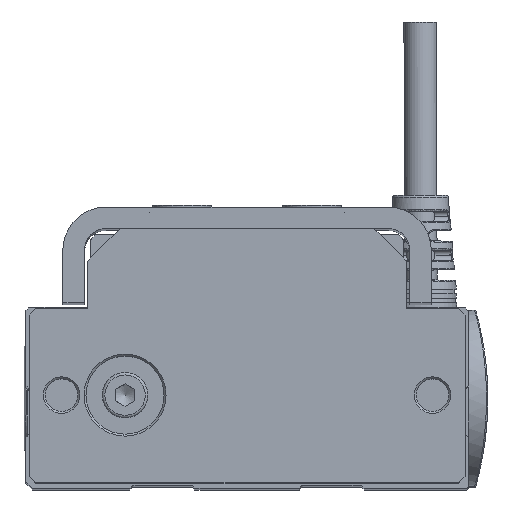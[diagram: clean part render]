
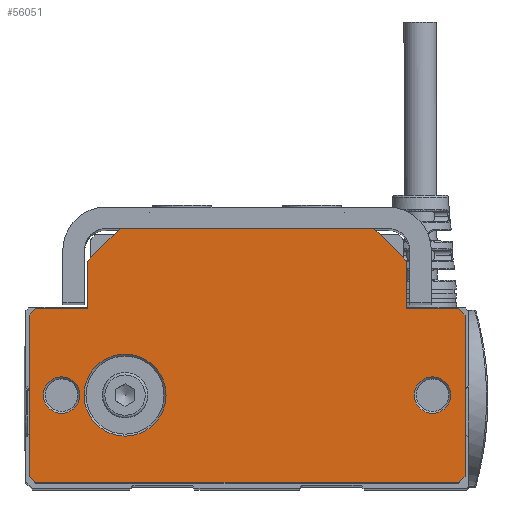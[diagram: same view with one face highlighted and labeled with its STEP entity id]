
A CAD part, top view. The second image highlights one B-rep face of the part: STEP entity #56051.
In plain terms, the highlighted planar face has unit normal (0, 0, 1).
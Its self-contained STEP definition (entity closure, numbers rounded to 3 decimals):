
#5225=FACE_BOUND('',#13966,.T.);
#5226=FACE_BOUND('',#13967,.T.);
#5227=FACE_BOUND('',#13968,.T.);
#7711=CIRCLE('',#61836,2.8);
#7712=CIRCLE('',#61837,2.8);
#7713=CIRCLE('',#61838,2.8);
#7714=CIRCLE('',#61839,2.8);
#7715=CIRCLE('',#61840,6.3);
#7716=CIRCLE('',#61841,6.3);
#10674=FACE_OUTER_BOUND('',#13965,.T.);
#13965=EDGE_LOOP('',(#51377,#51378,#51379,#51380,#51381,#51382,#51383,#51384,
#51385,#51386,#51387,#51388,#51389,#51390));
#13966=EDGE_LOOP('',(#51391,#51392));
#13967=EDGE_LOOP('',(#51393,#51394));
#13968=EDGE_LOOP('',(#51395,#51396));
#18057=LINE('',#121137,#22160);
#18059=LINE('',#121141,#22162);
#18062=LINE('',#121147,#22165);
#18063=LINE('',#121149,#22166);
#18064=LINE('',#121151,#22167);
#18065=LINE('',#121153,#22168);
#18066=LINE('',#121155,#22169);
#18067=LINE('',#121157,#22170);
#18068=LINE('',#121159,#22171);
#18069=LINE('',#121161,#22172);
#18070=LINE('',#121163,#22173);
#18071=LINE('',#121165,#22174);
#18072=LINE('',#121167,#22175);
#18073=LINE('',#121168,#22176);
#22160=VECTOR('',#76462,10.);
#22162=VECTOR('',#76466,1000.);
#22165=VECTOR('',#76471,1000.);
#22166=VECTOR('',#76472,10.);
#22167=VECTOR('',#76473,1000.);
#22168=VECTOR('',#76474,1000.);
#22169=VECTOR('',#76475,1000.);
#22170=VECTOR('',#76476,1000.);
#22171=VECTOR('',#76477,1000.);
#22172=VECTOR('',#76478,1000.);
#22173=VECTOR('',#76479,1000.);
#22174=VECTOR('',#76480,1000.);
#22175=VECTOR('',#76481,1000.);
#22176=VECTOR('',#76482,1000.);
#27473=VERTEX_POINT('',#121134);
#27474=VERTEX_POINT('',#121136);
#27475=VERTEX_POINT('',#121140);
#27477=VERTEX_POINT('',#121146);
#27478=VERTEX_POINT('',#121148);
#27479=VERTEX_POINT('',#121150);
#27480=VERTEX_POINT('',#121152);
#27481=VERTEX_POINT('',#121154);
#27482=VERTEX_POINT('',#121156);
#27483=VERTEX_POINT('',#121158);
#27484=VERTEX_POINT('',#121160);
#27485=VERTEX_POINT('',#121162);
#27486=VERTEX_POINT('',#121164);
#27487=VERTEX_POINT('',#121166);
#27488=VERTEX_POINT('',#121169);
#27489=VERTEX_POINT('',#121170);
#27490=VERTEX_POINT('',#121173);
#27491=VERTEX_POINT('',#121174);
#27492=VERTEX_POINT('',#121177);
#27493=VERTEX_POINT('',#121178);
#35478=EDGE_CURVE('',#27473,#27474,#18057,.T.);
#35480=EDGE_CURVE('',#27474,#27475,#18059,.T.);
#35483=EDGE_CURVE('',#27473,#27477,#18062,.T.);
#35484=EDGE_CURVE('',#27478,#27477,#18063,.T.);
#35485=EDGE_CURVE('',#27479,#27478,#18064,.T.);
#35486=EDGE_CURVE('',#27480,#27479,#18065,.T.);
#35487=EDGE_CURVE('',#27480,#27481,#18066,.T.);
#35488=EDGE_CURVE('',#27481,#27482,#18067,.T.);
#35489=EDGE_CURVE('',#27482,#27483,#18068,.T.);
#35490=EDGE_CURVE('',#27484,#27483,#18069,.T.);
#35491=EDGE_CURVE('',#27484,#27485,#18070,.T.);
#35492=EDGE_CURVE('',#27485,#27486,#18071,.T.);
#35493=EDGE_CURVE('',#27486,#27487,#18072,.T.);
#35494=EDGE_CURVE('',#27475,#27487,#18073,.T.);
#35495=EDGE_CURVE('',#27488,#27489,#7711,.T.);
#35496=EDGE_CURVE('',#27489,#27488,#7712,.T.);
#35497=EDGE_CURVE('',#27490,#27491,#7713,.T.);
#35498=EDGE_CURVE('',#27491,#27490,#7714,.T.);
#35499=EDGE_CURVE('',#27492,#27493,#7715,.T.);
#35500=EDGE_CURVE('',#27493,#27492,#7716,.T.);
#51377=ORIENTED_EDGE('',*,*,#35478,.F.);
#51378=ORIENTED_EDGE('',*,*,#35483,.T.);
#51379=ORIENTED_EDGE('',*,*,#35484,.F.);
#51380=ORIENTED_EDGE('',*,*,#35485,.F.);
#51381=ORIENTED_EDGE('',*,*,#35486,.F.);
#51382=ORIENTED_EDGE('',*,*,#35487,.T.);
#51383=ORIENTED_EDGE('',*,*,#35488,.T.);
#51384=ORIENTED_EDGE('',*,*,#35489,.T.);
#51385=ORIENTED_EDGE('',*,*,#35490,.F.);
#51386=ORIENTED_EDGE('',*,*,#35491,.T.);
#51387=ORIENTED_EDGE('',*,*,#35492,.T.);
#51388=ORIENTED_EDGE('',*,*,#35493,.T.);
#51389=ORIENTED_EDGE('',*,*,#35494,.F.);
#51390=ORIENTED_EDGE('',*,*,#35480,.F.);
#51391=ORIENTED_EDGE('',*,*,#35495,.T.);
#51392=ORIENTED_EDGE('',*,*,#35496,.T.);
#51393=ORIENTED_EDGE('',*,*,#35497,.T.);
#51394=ORIENTED_EDGE('',*,*,#35498,.T.);
#51395=ORIENTED_EDGE('',*,*,#35499,.T.);
#51396=ORIENTED_EDGE('',*,*,#35500,.T.);
#53127=PLANE('',#61835);
#56051=ADVANCED_FACE('',(#10674,#5225,#5226,#5227),#53127,.T.);
#61835=AXIS2_PLACEMENT_3D('',#121145,#76469,#76470);
#61836=AXIS2_PLACEMENT_3D('',#121171,#76483,#76484);
#61837=AXIS2_PLACEMENT_3D('',#121172,#76485,#76486);
#61838=AXIS2_PLACEMENT_3D('',#121175,#76487,#76488);
#61839=AXIS2_PLACEMENT_3D('',#121176,#76489,#76490);
#61840=AXIS2_PLACEMENT_3D('',#121179,#76491,#76492);
#61841=AXIS2_PLACEMENT_3D('',#121180,#76493,#76494);
#76462=DIRECTION('',(0.707,-0.707,0.));
#76466=DIRECTION('',(0.,-1.,0.));
#76469=DIRECTION('center_axis',(0.,0.,1.));
#76470=DIRECTION('ref_axis',(1.,0.,0.));
#76471=DIRECTION('',(-1.,0.,0.));
#76472=DIRECTION('',(0.707,0.707,0.));
#76473=DIRECTION('',(0.,1.,0.));
#76474=DIRECTION('',(1.,0.,0.));
#76475=DIRECTION('',(-0.707,-0.707,0.));
#76476=DIRECTION('',(0.,-1.,0.));
#76477=DIRECTION('',(0.707,-0.707,0.));
#76478=DIRECTION('',(-1.,0.,0.));
#76479=DIRECTION('',(0.707,0.707,0.));
#76480=DIRECTION('',(0.,1.,0.));
#76481=DIRECTION('',(-0.707,0.707,0.));
#76482=DIRECTION('',(1.,0.,0.));
#76483=DIRECTION('center_axis',(0.,0.,-1.));
#76484=DIRECTION('ref_axis',(1.,0.,0.));
#76485=DIRECTION('center_axis',(0.,0.,-1.));
#76486=DIRECTION('ref_axis',(1.,0.,0.));
#76487=DIRECTION('center_axis',(0.,0.,-1.));
#76488=DIRECTION('ref_axis',(1.,0.,0.));
#76489=DIRECTION('center_axis',(0.,0.,-1.));
#76490=DIRECTION('ref_axis',(1.,0.,0.));
#76491=DIRECTION('center_axis',(0.,0.,-1.));
#76492=DIRECTION('ref_axis',(1.,0.,0.));
#76493=DIRECTION('center_axis',(0.,0.,-1.));
#76494=DIRECTION('ref_axis',(1.,0.,0.));
#121134=CARTESIAN_POINT('',(19.5,19.575,0.));
#121136=CARTESIAN_POINT('',(24.5,14.575,0.));
#121137=CARTESIAN_POINT('',(20.769,18.306,0.));
#121140=CARTESIAN_POINT('',(24.5,7.275,0.));
#121141=CARTESIAN_POINT('',(24.5,20.025,0.));
#121145=CARTESIAN_POINT('Origin',(0.,0.,0.));
#121146=CARTESIAN_POINT('',(-19.5,19.575,0.));
#121147=CARTESIAN_POINT('',(-33.5,19.575,0.));
#121148=CARTESIAN_POINT('',(-24.5,14.575,0.));
#121149=CARTESIAN_POINT('',(-20.769,18.306,0.));
#121150=CARTESIAN_POINT('',(-24.5,7.275,0.));
#121151=CARTESIAN_POINT('',(-24.5,20.025,0.));
#121152=CARTESIAN_POINT('',(-32.5,7.275,0.));
#121153=CARTESIAN_POINT('',(-33.5,7.275,0.));
#121154=CARTESIAN_POINT('',(-33.5,6.275,0.));
#121155=CARTESIAN_POINT('',(-19.888,19.888,0.));
#121156=CARTESIAN_POINT('',(-33.5,-18.525,0.));
#121157=CARTESIAN_POINT('',(-33.5,20.025,0.));
#121158=CARTESIAN_POINT('',(-32.5,-19.525,0.));
#121159=CARTESIAN_POINT('',(-26.013,-26.012,0.));
#121160=CARTESIAN_POINT('',(32.5,-19.525,0.));
#121161=CARTESIAN_POINT('',(33.5,-19.525,0.));
#121162=CARTESIAN_POINT('',(33.5,-18.525,0.));
#121163=CARTESIAN_POINT('',(26.013,-26.012,0.));
#121164=CARTESIAN_POINT('',(33.5,6.275,0.));
#121165=CARTESIAN_POINT('',(33.5,20.025,0.));
#121166=CARTESIAN_POINT('',(32.5,7.275,0.));
#121167=CARTESIAN_POINT('',(19.888,19.888,0.));
#121168=CARTESIAN_POINT('',(33.5,7.275,0.));
#121169=CARTESIAN_POINT('',(31.3,-6.025,0.));
#121170=CARTESIAN_POINT('',(25.7,-6.025,0.));
#121171=CARTESIAN_POINT('Origin',(28.5,-6.025,0.));
#121172=CARTESIAN_POINT('Origin',(28.5,-6.025,0.));
#121173=CARTESIAN_POINT('',(-25.7,-6.025,0.));
#121174=CARTESIAN_POINT('',(-31.3,-6.025,0.));
#121175=CARTESIAN_POINT('Origin',(-28.5,-6.025,0.));
#121176=CARTESIAN_POINT('Origin',(-28.5,-6.025,0.));
#121177=CARTESIAN_POINT('',(-12.45,-6.025,0.));
#121178=CARTESIAN_POINT('',(-25.05,-6.025,0.));
#121179=CARTESIAN_POINT('Origin',(-18.75,-6.025,0.));
#121180=CARTESIAN_POINT('Origin',(-18.75,-6.025,0.));
